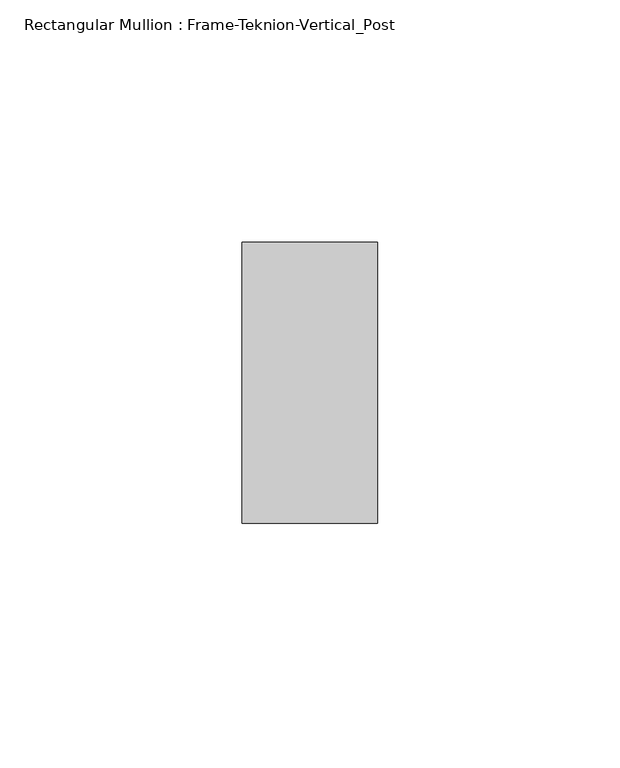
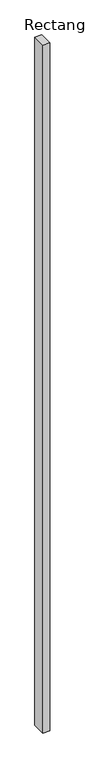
"""IFC4 building model written with IfcOpenShell, lengths in millimetres: member geometry, Rectangular Mullion : Frame-Teknion-Vertical_Post."""

from ifc_helpers import new_model, si_unit, frame, origin, place, context, project, spatial, polyline, outline, extrude, source, transform, mapped, element, save


def rectangular_mullion_frame_teknion_vertical_post_4f5934a5(model_context):
    return source(origin(), model_context, "Body", "SweptSolid", [
        extrude(outline(polyline([(-13.9898438, 28.971875), (13.9898438, 28.971875), (13.9898438, -28.971875), (-13.9898438, -28.971875), (-13.9898438, 28.971875)])), frame((0.0, 0.0, -3024.6835937), z_axis=(0.0, 0.0, 1.0), x_axis=(1.0, 0.0, 0.0)), (0.0, 0.0, 1.0), 3024.6835937),
    ])


if __name__ == "__main__":
    model = new_model("IFC4")
    model_context = context("Model", 3, world=origin())
    ifc_project = project(units=[si_unit("LENGTHUNIT", "METRE", prefix="MILLI")], contexts=[model_context])
    site = spatial("IfcSite", under=ifc_project)
    building = spatial("IfcBuilding", under=site)
    placement = place(None, origin())
    rectangular_mullion_frame_teknion_vertical_post_shape = rectangular_mullion_frame_teknion_vertical_post_4f5934a5(model_context)
    element("IfcMember", 1, ObjectType="Rectangular Mullion : Frame-Teknion-Vertical_Post", at=placement, inside=building, context=model_context, shape_type="MappedRepresentation", body=[
        mapped(rectangular_mullion_frame_teknion_vertical_post_shape, transform((0.0, 0.0, 0.0), x_axis=(1.0, 0.0, 0.0), y_axis=(0.0, 1.0, 0.0), z_axis=(0.0, 0.0, 1.0))),
    ])
    save(model, "model.ifc")
